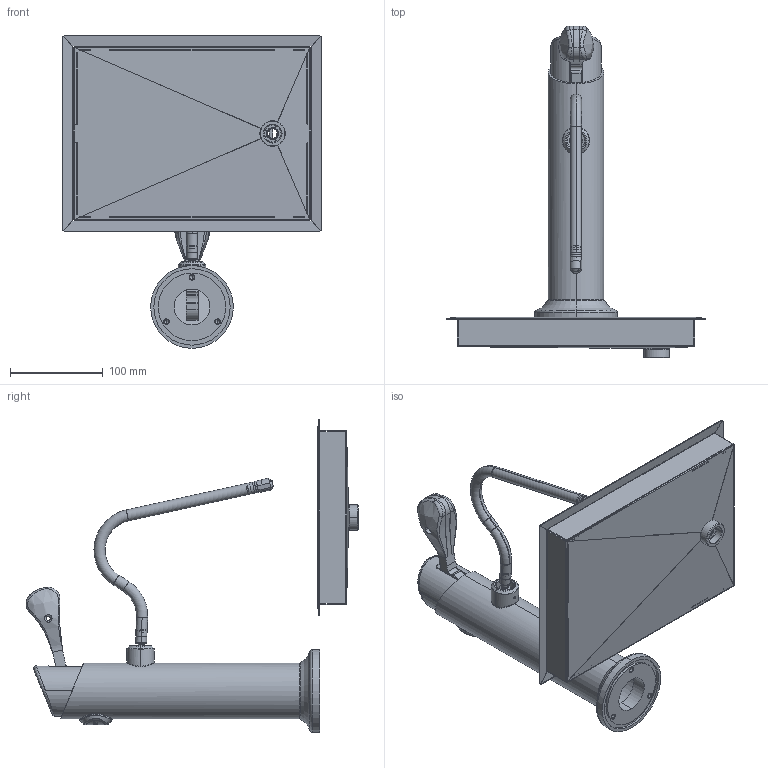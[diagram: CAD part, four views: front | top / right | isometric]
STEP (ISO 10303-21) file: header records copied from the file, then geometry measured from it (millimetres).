
FILE_DESCRIPTION (( 'STEP AP214' ), '1' );
FILE_NAME ('LM0015614_-_.step', '2018-10-16T15:15:47', ( '' ), ( '' ), 'SwSTEP 2.0', 'SolidWorks 2017', '' );
FILE_SCHEMA (( 'AUTOMOTIVE_DESIGN' ));
Length unit declared in the file: millimetre
Products named in the file (19): LM0015452; LM0014142; LM0014276; LM0014147; LM0012982; M-0053-01_1; LM0014309_A-6005-01_base_of; LM0012182_Saldato; LM0013892; LM0006751_CGT.SA.04_junction_of; LM0012983; M-0052-01_1; LM0014755; LM0013891; LM0000211; LM0015614_-_; LM0014143_A-6005-01_tube_of; LM0014516; LM0014754
Assembly tree (18 placements, depth 3):
  LM0015614_-_
    LM0014142
      LM0014309_A-6005-01_base_of
      LM0014143_A-6005-01_tube_of
    LM0014754
      LM0006751_CGT.SA.04_junction_of
      LM0014755
    LM0000211
    LM0014147
    LM0014276
    LM0012982
      LM0012983
      LM0012182_Saldato
    LM0014516
    LM0015452
    LM0013891
      LM0013892
      M-0052-01_1
      M-0053-01_1
Bounding box: 278.75 x 357.04 x 336.12 mm (x, y, z)
Volume: 520330.2 mm3; surface area: 479923.7 mm2
Topology: 16 solids, 16 shells, 2019 faces, 4983 edges, 2996 vertices
Faces by surface type: cylinder 842, plane 555, torus 308, bspline 224, cone 61, sphere 29
Entity records: 103386 total; most frequent: CARTESIAN_POINT 55001, DIRECTION 9930, ORIENTED_EDGE 9924, EDGE_CURVE 4962, AXIS2_PLACEMENT_3D 3815, VERTEX_POINT 2993, EDGE_LOOP 2359, LINE 2300
